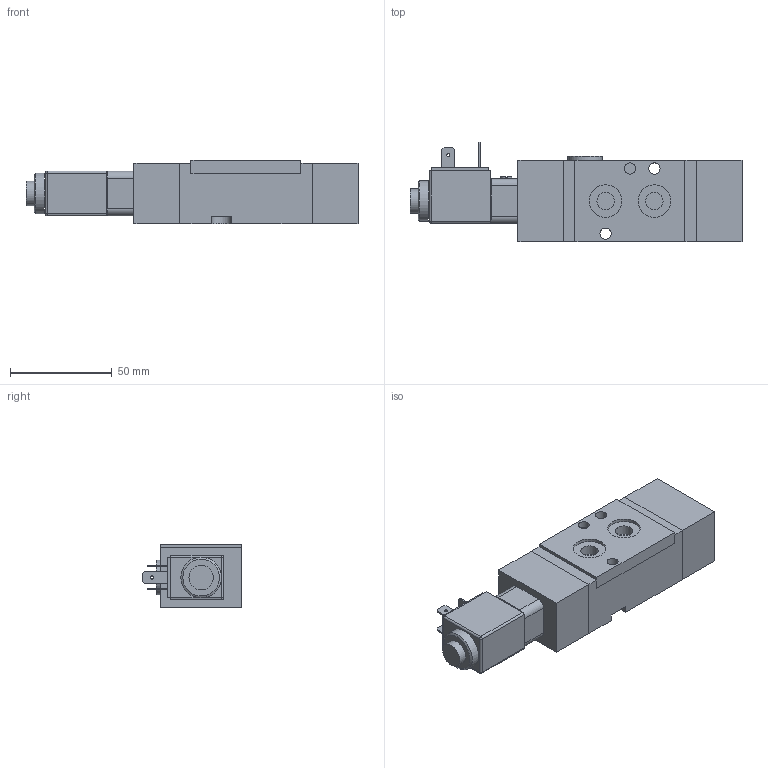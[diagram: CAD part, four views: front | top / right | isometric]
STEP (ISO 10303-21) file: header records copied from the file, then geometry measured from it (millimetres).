
FILE_DESCRIPTION((''),'2;1');
FILE_NAME('I:\Area Tecnica\Disegni\VARIE-3D\Componenti\T514\3D\T514_42_00_36_B#.stp','2008-05-09T11:21:09',('foiengi1'),(''),'Autodesk Inventor 2008','Autodesk Inventor 2008','');
FILE_SCHEMA(('AUTOMOTIVE_DESIGN { 1 0 10303 214 1 1 1 1 }'));
Length unit declared in the file: millimetre
Products named in the file (3): T514_42_00_36_B#; T514_42_00_36_B00; MB
Assembly tree (2 placements, depth 2):
  T514_42_00_36_B#
    T514_42_00_36_B00
    MB
Bounding box: 163 x 49 x 31 mm (x, y, z)
Volume: 154340.9 mm3; surface area: 28777.2 mm2
Topology: 2 solids, 2 shells, 157 faces, 350 edges, 228 vertices
Faces by surface type: plane 95, bspline 30, cylinder 29, sphere 2, cone 1
Full cylindrical faces by diameter (mm): 5.5 x3, 7.4 x1, 8.2 x3, 9.8 x1, 10 x1, 10.2 x1, 12 x1, 13 x1, 13.5 x1, 16 x2, 16.2 x1, 17 x1, 20 x1
Entity records: 4581 total; most frequent: CARTESIAN_POINT 1033, DIRECTION 663, ORIENTED_EDGE 612, EDGE_CURVE 306, EDGE_LOOP 239, AXIS2_PLACEMENT_3D 225, VERTEX_POINT 223, VECTOR 213
